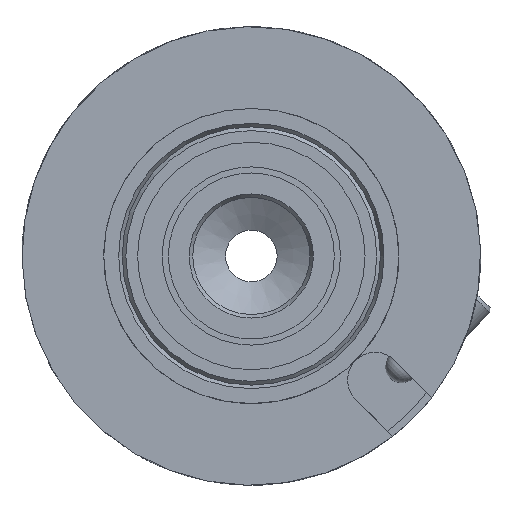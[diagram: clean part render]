
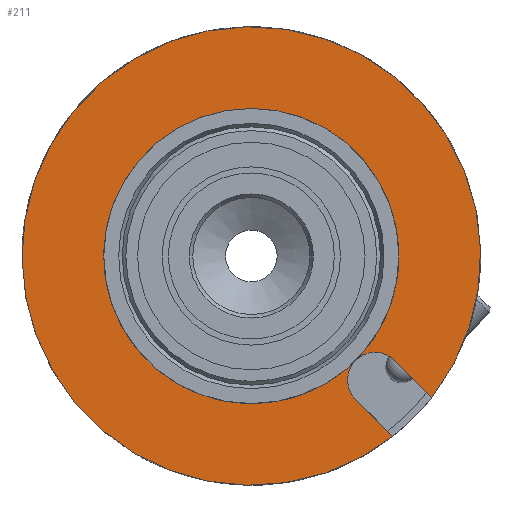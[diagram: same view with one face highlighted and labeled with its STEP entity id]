
A CAD part, left-side view. The second image highlights one B-rep face of the part: STEP entity #211.
In plain terms, the highlighted planar face has unit normal (-1, 0, 0).
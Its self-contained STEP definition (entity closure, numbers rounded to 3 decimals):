
#211 = ADVANCED_FACE( '', ( #545 ), #546, .T. );
#545 = FACE_OUTER_BOUND( '', #1084, .T. );
#546 = PLANE( '', #1085 );
#1084 = EDGE_LOOP( '', ( #1695, #1696, #1697, #1698, #1699, #1700 ) );
#1085 = AXIS2_PLACEMENT_3D( '', #1701, #1702, #1703 );
#1695 = ORIENTED_EDGE( '', *, *, #2558, .T. );
#1696 = ORIENTED_EDGE( '', *, *, #2559, .T. );
#1697 = ORIENTED_EDGE( '', *, *, #2560, .T. );
#1698 = ORIENTED_EDGE( '', *, *, #2542, .T. );
#1699 = ORIENTED_EDGE( '', *, *, #2561, .T. );
#1700 = ORIENTED_EDGE( '', *, *, #2513, .F. );
#1701 = CARTESIAN_POINT( '', ( 4., 0., 12. ) );
#1702 = DIRECTION( '', ( -1., 0., 0. ) );
#1703 = DIRECTION( '', ( 0., 0., 1. ) );
#2513 = EDGE_CURVE( '', #2885, #2885, #2886, .T. );
#2542 = EDGE_CURVE( '', #2931, #2929, #2932, .T. );
#2558 = EDGE_CURVE( '', #2885, #2957, #2958, .T. );
#2559 = EDGE_CURVE( '', #2957, #2959, #2960, .T. );
#2560 = EDGE_CURVE( '', #2959, #2931, #2961, .T. );
#2561 = EDGE_CURVE( '', #2929, #2885, #2962, .T. );
#2885 = VERTEX_POINT( '', #3431 );
#2886 = CIRCLE( '', #3432, 12. );
#2929 = VERTEX_POINT( '', #3500 );
#2931 = VERTEX_POINT( '', #3503 );
#2932 = LINE( '', #3504, #3505 );
#2957 = VERTEX_POINT( '', #3533 );
#2958 = CIRCLE( '', #3534, 2.25 );
#2959 = VERTEX_POINT( '', #3535 );
#2960 = LINE( '', #3536, #3537 );
#2961 = CIRCLE( '', #3538, 18.65 );
#2962 = CIRCLE( '', #3539, 2.25 );
#3431 = CARTESIAN_POINT( '', ( 4., -8.485, -8.485 ) );
#3432 = AXIS2_PLACEMENT_3D( '', #4170, #4171, #4172 );
#3500 = CARTESIAN_POINT( '', ( 4., -8.485, -11.667 ) );
#3503 = CARTESIAN_POINT( '', ( 4., -11.5, -14.682 ) );
#3504 = CARTESIAN_POINT( '', ( 4., -8.485, -11.667 ) );
#3505 = VECTOR( '', #4213, 1000. );
#3533 = CARTESIAN_POINT( '', ( 4., -11.667, -8.485 ) );
#3534 = AXIS2_PLACEMENT_3D( '', #4238, #4239, #4240 );
#3535 = CARTESIAN_POINT( '', ( 4., -14.682, -11.5 ) );
#3536 = CARTESIAN_POINT( '', ( 4., -11.667, -8.485 ) );
#3537 = VECTOR( '', #4241, 1000. );
#3538 = AXIS2_PLACEMENT_3D( '', #4242, #4243, #4244 );
#3539 = AXIS2_PLACEMENT_3D( '', #4245, #4246, #4247 );
#4170 = CARTESIAN_POINT( '', ( 4., 0., 0. ) );
#4171 = DIRECTION( '', ( -1., 0., 0. ) );
#4172 = DIRECTION( '', ( 0., 0., 1. ) );
#4213 = DIRECTION( '', ( 0., 0.707, 0.707 ) );
#4238 = CARTESIAN_POINT( '', ( 4., -10.076, -10.076 ) );
#4239 = DIRECTION( '', ( 1., 0., 0. ) );
#4240 = DIRECTION( '', ( 0., -1., 0. ) );
#4241 = DIRECTION( '', ( 0., -0.707, -0.707 ) );
#4242 = CARTESIAN_POINT( '', ( 4., 0., 0. ) );
#4243 = DIRECTION( '', ( -1., 0., 0. ) );
#4244 = DIRECTION( '', ( 0., 0., 1. ) );
#4245 = CARTESIAN_POINT( '', ( 4., -10.076, -10.076 ) );
#4246 = DIRECTION( '', ( 1., 0., 0. ) );
#4247 = DIRECTION( '', ( 0., -1., 0. ) );
